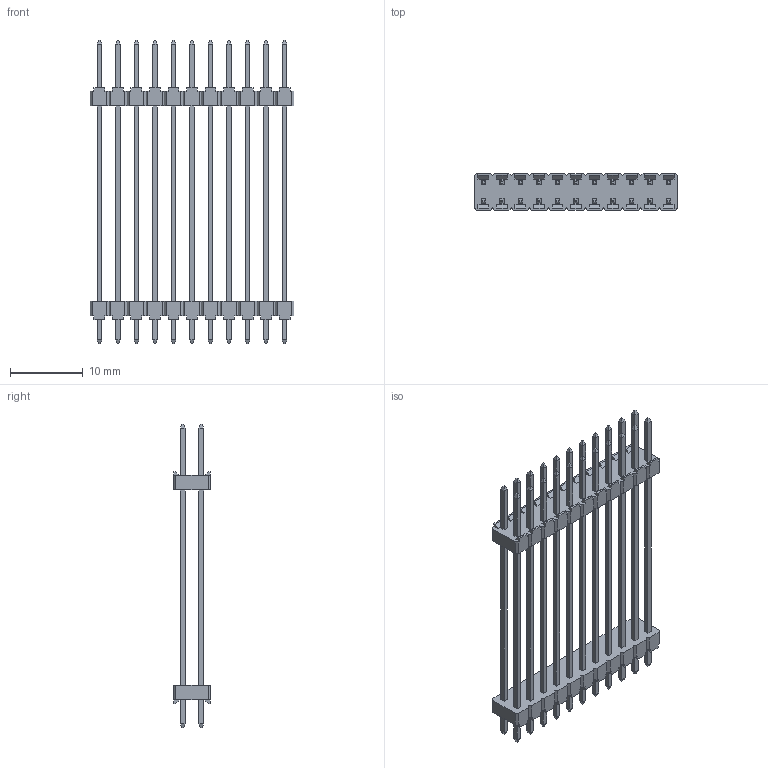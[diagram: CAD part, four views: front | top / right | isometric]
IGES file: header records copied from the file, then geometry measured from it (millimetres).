
Global section: file name: N:\GOLF_VI_2_54mm_UGII\9614XX-X04XX04-XX (TS-2185)\961422-8041604-XX.igs; native system: NX V3.0; preprocessor: UGS NX IGES V4.0; date: 20070618.105206; units: millimetre
Bounding box: 27.94 x 5 x 41.6 mm (x, y, z)
Surface area: 2952.5 mm2 (no closed solid volume)
Topology: 0 solids, 0 shells, 848 faces, 4449 edges, 4449 vertices
Faces by surface type: bspline 848
